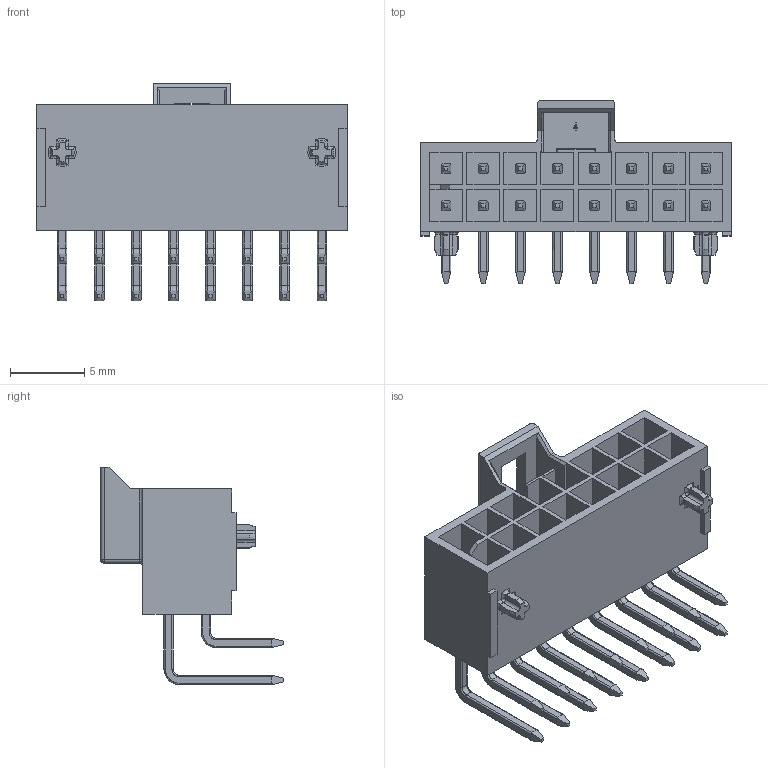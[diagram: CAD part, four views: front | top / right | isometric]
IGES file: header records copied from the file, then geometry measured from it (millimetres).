
Start section: ZWSOFT
Global section: file name: WF2508-2WRH08XXBA1.igs; native system: ZW3D; preprocessor: 1.0; author: ZW3D; organization: ZWSOFT; date: 240104.150240; units: millimetre
Bounding box: 20.94 x 12.34 x 14.66 mm (x, y, z)
Surface area: 2278.5 mm2 (no closed solid volume)
Topology: 0 solids, 0 shells, 984 faces, 5242 edges, 5238 vertices
Faces by surface type: bspline 984
